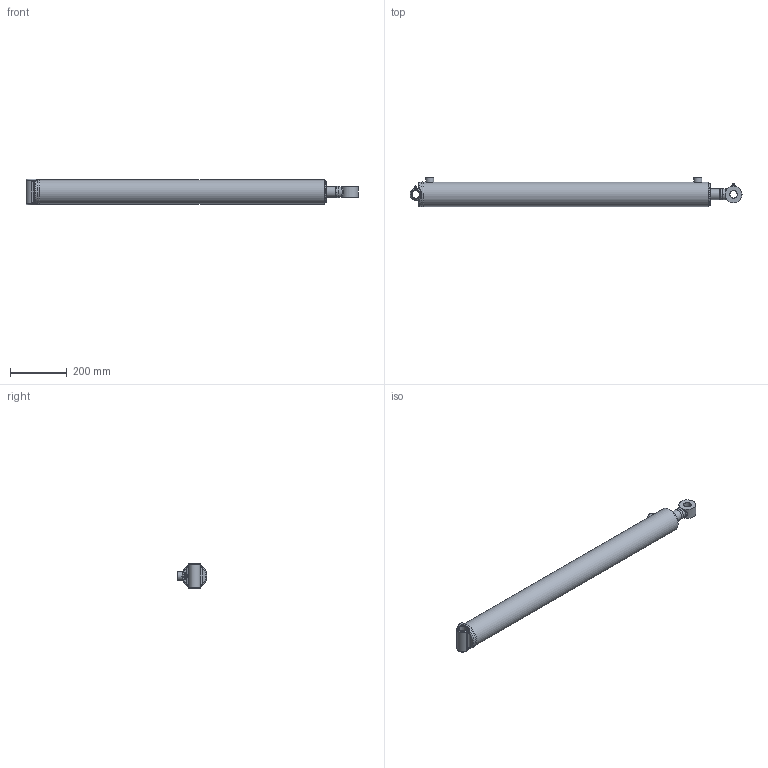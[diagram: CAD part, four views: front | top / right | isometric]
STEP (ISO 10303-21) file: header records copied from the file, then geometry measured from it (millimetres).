
FILE_DESCRIPTION(/* description */ ('Ø3.00 X 36.00 DA'),/* implementation_level */ '2;1');
FILE_NAME(/* name */ 'result.stp',/* time_stamp */ '2024-05-22T20:47:24Z',/* author */ ('AJC'),/* organization */ ('PRINCE MANUFACTURING'),/* preprocessor_version */ 'ST-DEVELOPER v20',/* originating_system */ 'Autodesk Inventor 2024',/* authorisation */ '');
FILE_SCHEMA (('AUTOMOTIVE_DESIGN { 1 0 10303 214 3 1 1 }'));
Length unit declared in the file: inch
Products named in the file (21): PC3036015A00-440XTXS; 0615-XTSF000-39507; 0515-T-39507; 161500198; 200015603; 06Weld1_C360; 0715-P-100; 220000210; 0815-G-150; 230025104; 230025004; 240000022; 240061334; 240000334; 0208A-HAW2-41813XS; 0108A-HAW2-41813; 210400772; 02Weld_C360; 240020059; 250014150; 270010020
Assembly tree (22 placements, depth 3):
  PC3036015A00-440XTXS
    0615-XTSF000-39507
      0515-T-39507
      161500198
      200015603  x2
      06Weld1_C360
    0715-P-100
    220000210
    0815-G-150
    230025104
    230025004
    240000022
    240061334
    240000334
    0208A-HAW2-41813XS
      0108A-HAW2-41813
      210400772
      02Weld_C360
    240020059
    250014150
    270010020  x2
Bounding box: 1167.64 x 104.04 x 88.9 mm (x, y, z)
Volume: 2892573.2 mm3; surface area: 794092.2 mm2
Topology: 26 solids, 26 shells, 564 faces, 1375 edges, 870 vertices
Faces by surface type: bspline 162, plane 135, torus 95, cylinder 84, cone 84, sphere 4
Full cylindrical faces by diameter (mm): 2.143 x4, 3.175 x1, 5.359 x2, 6.35 x2, 9.525 x2, 12.649 x1, 12.7 x1, 12.725 x1, 17.323 x2, 23.444 x1, 25.349 x1, 25.476 x1, 25.781 x1, 26.162 x1, 27.965 x1, 28.575 x2, 38.1 x1, 38.176 x2, 39.294 x2, 40.132 x1, 40.488 x1, 45.263 x1, 46.457 x1, 47.65 x1, 49.276 x2, 50.8 x2, 61.976 x1, 63.5 x2, 66.777 x2, 67.513 x2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
Entity records: 35075 total; most frequent: CARTESIAN_POINT 22422, ORIENTED_EDGE 2512, DIRECTION 2178, EDGE_CURVE 1256, AXIS2_PLACEMENT_3D 915, VERTEX_POINT 809, EDGE_LOOP 595, FACE_OUTER_BOUND 520
